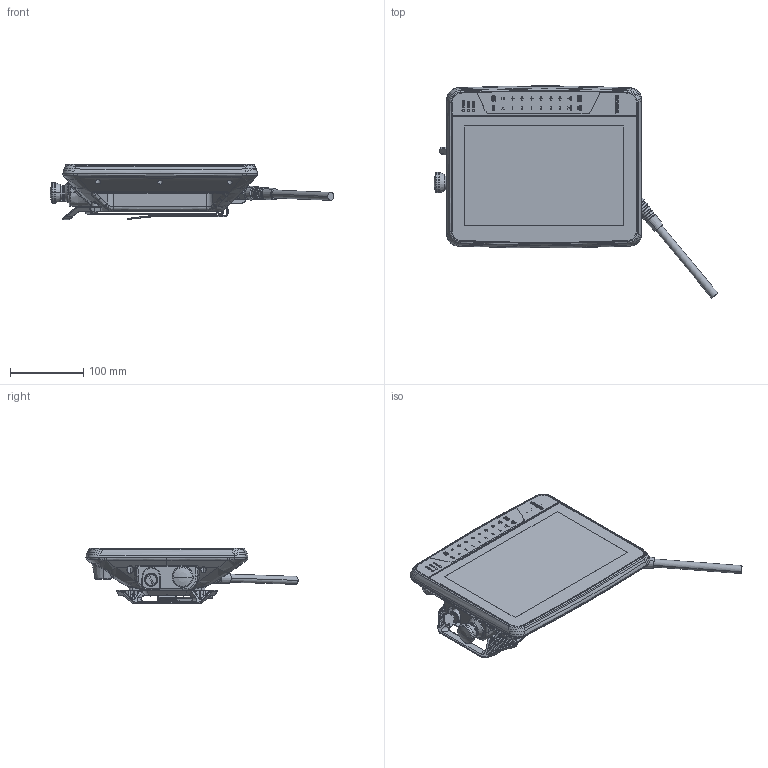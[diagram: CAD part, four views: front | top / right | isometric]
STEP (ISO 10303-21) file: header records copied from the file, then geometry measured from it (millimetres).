
FILE_DESCRIPTION(('STEP AP214'),'1');
FILE_NAME('20190328_KeTop_C150YAS_customer_model.stp','2019-03-28T10:53:56',('3D-Tool'),(' '),'Spatial InterOp 3D',' ',' ');
FILE_SCHEMA(('AUTOMOTIVE_DESIGN { 1 0 10303 214 1 1 1 1 }'));
Length unit declared in the file: millimetre
Products named in the file (1): 1
Bounding box: 387.37 x 289.86 x 75.45 mm (x, y, z)
Volume: 2371573.8 mm3; surface area: 207226.3 mm2
Topology: 1 solids, 13 shells, 4337 faces, 11588 edges, 7285 vertices
Faces by surface type: cylinder 1152, bspline 1142, plane 887, torus 501, extrusion 286, cone 259, sphere 110
Entity records: 790290 total; most frequent: CARTESIAN_POINT 660626, ORIENTED_EDGE 22756, DIRECTION 15837, EDGE_CURVE 11378, VERTEX_POINT 7285, AXIS2_PLACEMENT_3D 6193, B_SPLINE_CURVE_WITH_KNOTS 4701, EDGE_LOOP 4585
